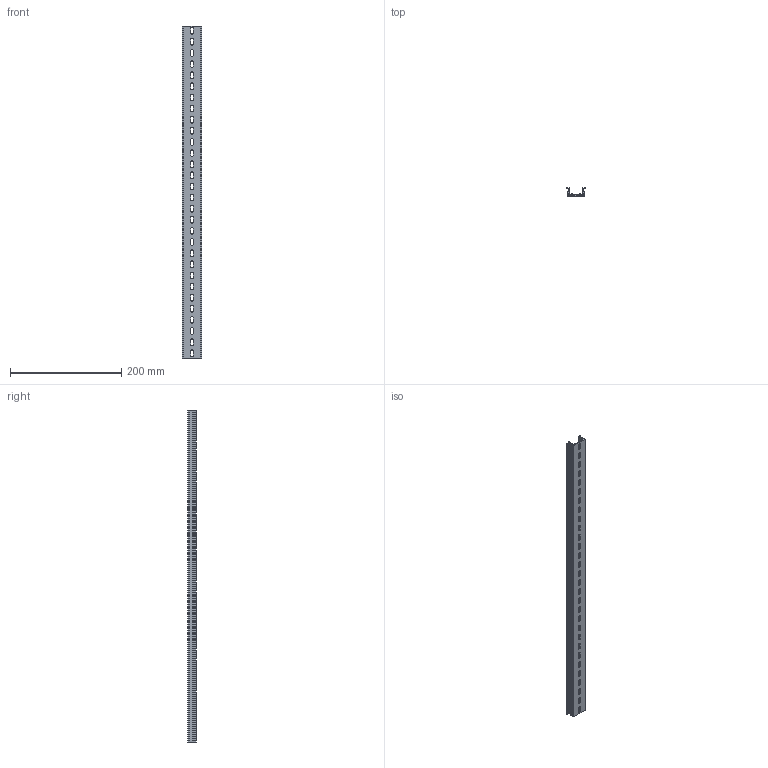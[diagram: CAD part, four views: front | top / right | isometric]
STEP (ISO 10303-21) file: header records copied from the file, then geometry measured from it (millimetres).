
FILE_DESCRIPTION(/* description */ (''),/* implementation_level */ '2;1');
FILE_NAME(/* name */ '22649-(TKB KD-30)HP 3D.stp',/* time_stamp */ '2024-12-05T14:10:09+09:00',/* author */ ('usercadg104'),/* organization */ (''),/* preprocessor_version */ 'ST-DEVELOPER v19.2',/* originating_system */ 'Autodesk Inventor 2023',/* authorisation */ '');
FILE_SCHEMA (('CONFIG_CONTROL_DESIGN'));
Length unit declared in the file: millimetre
Products named in the file (1): TKB KD-3(林)
Bounding box: 35 x 15 x 597 mm (x, y, z)
Volume: 69844 mm3; surface area: 80713.3 mm2
Topology: 1 solids, 1 shells, 160 faces, 474 edges, 316 vertices
Faces by surface type: plane 96, cylinder 64
Entity records: 5529 total; most frequent: CARTESIAN_POINT 951, ORIENTED_EDGE 948, DIRECTION 924, EDGE_CURVE 474, LINE 346, VECTOR 346, VERTEX_POINT 316, AXIS2_PLACEMENT_3D 289
